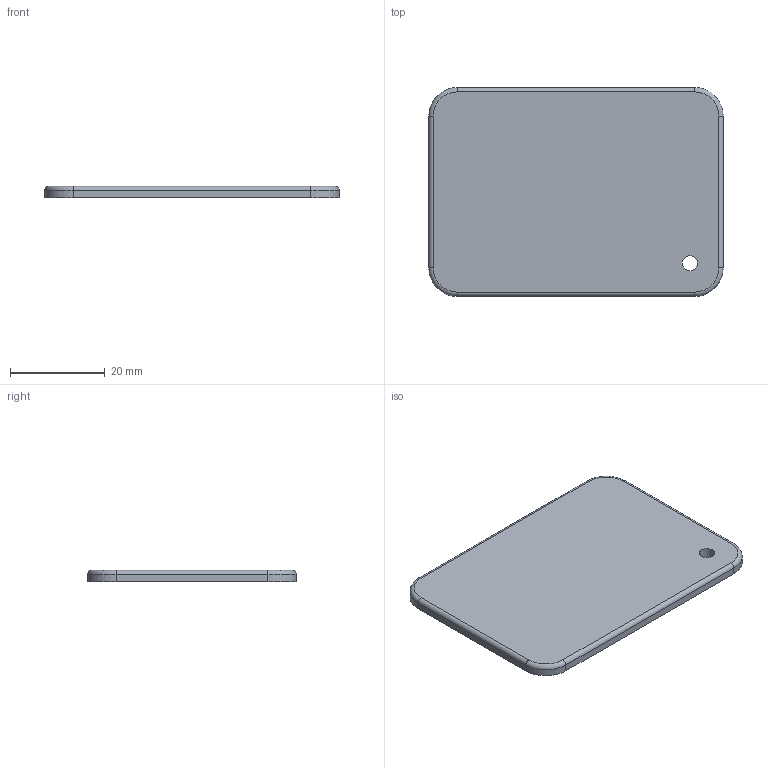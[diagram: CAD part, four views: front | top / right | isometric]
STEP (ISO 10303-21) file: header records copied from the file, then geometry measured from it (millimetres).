
FILE_DESCRIPTION(('Open CASCADE Model'),'2;1');
FILE_NAME('Open CASCADE Shape Model','2026-10-04T21:33:04',('Author'),( 'Open CASCADE'),'Open CASCADE STEP processor 7.9','Open CASCADE 7.9' ,'Unknown');
FILE_SCHEMA(('AUTOMOTIVE_DESIGN { 1 0 10303 214 1 1 1 1 }'));
Length unit declared in the file: millimetre
Products named in the file (1): Open CASCADE STEP translator 7.9 10
Bounding box: 62 x 44 x 2.4 mm (x, y, z)
Volume: 6418.9 mm3; surface area: 5808 mm2
Topology: 1 solids, 1 shells, 19 faces, 43 edges, 26 vertices
Faces by surface type: cylinder 9, plane 6, torus 4
Full cylindrical faces by diameter (mm): 3.2 x1
Entity records: 1116 total; most frequent: CARTESIAN_POINT 239, DIRECTION 167, ORIENTED_EDGE 86, PCURVE 86, DEFINITIONAL_REPRESENTATION 86, LINE 81, VECTOR 81, EDGE_CURVE 43
